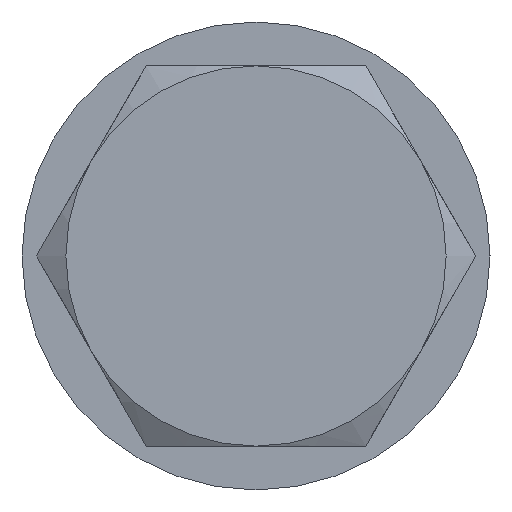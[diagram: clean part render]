
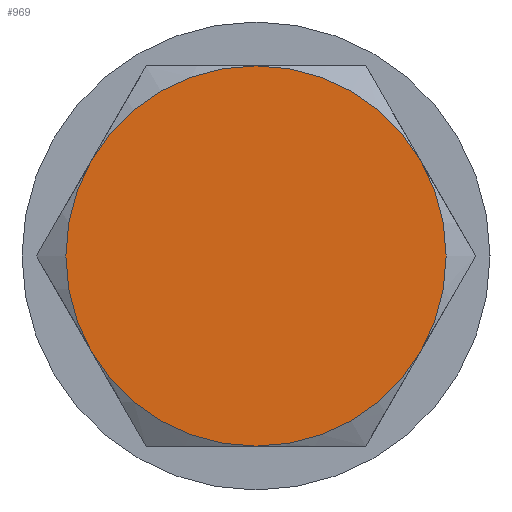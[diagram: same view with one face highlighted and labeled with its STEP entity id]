
A CAD part, left-side view. The second image highlights one B-rep face of the part: STEP entity #969.
In plain terms, the highlighted planar face has unit normal (-1, 0, 0).
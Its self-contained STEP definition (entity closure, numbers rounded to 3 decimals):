
#516=CARTESIAN_POINT('',(-5.3,5.629,3.25));
#517=VERTEX_POINT('',#516);
#533=CARTESIAN_POINT('',(-5.3,0.,6.5));
#534=VERTEX_POINT('',#533);
#535=CARTESIAN_POINT('',(-5.3,0.0,0.0));
#536=DIRECTION('',(-1.0,0.0,0.0));
#537=DIRECTION('',(0.0,1.0,0.0));
#538=AXIS2_PLACEMENT_3D('',#535,#536,#537);
#539=CIRCLE('',#538,6.5);
#540=EDGE_CURVE('',#534,#517,#539,.T.);
#565=CARTESIAN_POINT('',(-5.3,-5.629,3.25));
#566=VERTEX_POINT('',#565);
#593=CARTESIAN_POINT('',(-5.3,0.0,0.0));
#594=DIRECTION('',(-1.0,0.0,0.0));
#595=DIRECTION('',(0.0,1.0,0.0));
#596=AXIS2_PLACEMENT_3D('',#593,#594,#595);
#597=CIRCLE('',#596,6.5);
#598=EDGE_CURVE('',#566,#534,#597,.T.);
#608=CARTESIAN_POINT('',(-5.3,5.629,-3.25));
#609=VERTEX_POINT('',#608);
#625=CARTESIAN_POINT('',(-5.3,0.0,0.0));
#626=DIRECTION('',(-1.0,0.0,0.0));
#627=DIRECTION('',(0.0,1.0,0.0));
#628=AXIS2_PLACEMENT_3D('',#625,#626,#627);
#629=CIRCLE('',#628,6.5);
#630=EDGE_CURVE('',#517,#609,#629,.T.);
#655=CARTESIAN_POINT('',(-5.3,-5.629,-3.25));
#656=VERTEX_POINT('',#655);
#683=CARTESIAN_POINT('',(-5.3,0.0,0.0));
#684=DIRECTION('',(-1.0,0.0,0.0));
#685=DIRECTION('',(0.0,1.0,0.0));
#686=AXIS2_PLACEMENT_3D('',#683,#684,#685);
#687=CIRCLE('',#686,6.5);
#688=EDGE_CURVE('',#656,#566,#687,.T.);
#698=CARTESIAN_POINT('',(-5.3,0.,-6.5));
#699=VERTEX_POINT('',#698);
#715=CARTESIAN_POINT('',(-5.3,0.0,0.0));
#716=DIRECTION('',(-1.0,0.0,0.0));
#717=DIRECTION('',(0.0,1.0,0.0));
#718=AXIS2_PLACEMENT_3D('',#715,#716,#717);
#719=CIRCLE('',#718,6.5);
#720=EDGE_CURVE('',#609,#699,#719,.T.);
#771=CARTESIAN_POINT('',(-5.3,0.0,0.0));
#772=DIRECTION('',(-1.0,0.0,0.0));
#773=DIRECTION('',(0.0,1.0,0.0));
#774=AXIS2_PLACEMENT_3D('',#771,#772,#773);
#775=CIRCLE('',#774,6.5);
#776=EDGE_CURVE('',#699,#656,#775,.T.);
#956=CARTESIAN_POINT('',(-5.3,0.,0.));
#957=DIRECTION('',(1.0,0.0,0.0));
#958=DIRECTION('',(0.0,0.0,-1.0));
#959=AXIS2_PLACEMENT_3D('',#956,#957,#958);
#960=PLANE('',#959);
#961=ORIENTED_EDGE('',*,*,#540,.T.);
#962=ORIENTED_EDGE('',*,*,#630,.T.);
#963=ORIENTED_EDGE('',*,*,#720,.T.);
#964=ORIENTED_EDGE('',*,*,#776,.T.);
#965=ORIENTED_EDGE('',*,*,#688,.T.);
#966=ORIENTED_EDGE('',*,*,#598,.T.);
#967=EDGE_LOOP('',(#961,#962,#963,#964,#965,#966));
#968=FACE_OUTER_BOUND('',#967,.T.);
#969=ADVANCED_FACE('',(#968),#960,.F.);
